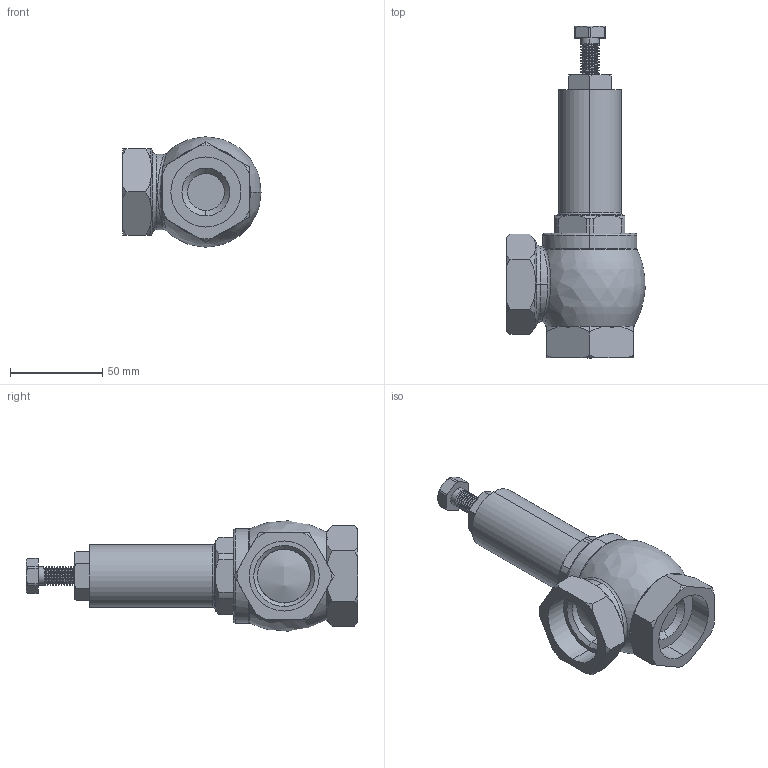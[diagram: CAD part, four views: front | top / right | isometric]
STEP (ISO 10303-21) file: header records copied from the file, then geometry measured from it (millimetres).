
FILE_DESCRIPTION (( 'STEP AP214' ), '1' );
FILE_NAME ('Êëàïàí ïðåäîõðàíèòåëüíûé TSV-32.STEP', '2026-10-08T06:34:35', ( '' ), ( '' ), 'SwSTEP 2.0', 'SolidWorks 2023', '' );
FILE_SCHEMA (( 'AUTOMOTIVE_DESIGN' ));
Length unit declared in the file: millimetre
Products named in the file (1): Клапан предохранительный TSV-32
Bounding box: 74.92 x 180 x 59.92 mm (x, y, z)
Volume: 237163.8 mm3; surface area: 34565.1 mm2
Topology: 1 solids, 1 shells, 177 faces, 468 edges, 302 vertices
Faces by surface type: cone 50, cylinder 49, plane 49, bspline 20, torus 9
Entity records: 11119 total; most frequent: CARTESIAN_POINT 7083, ORIENTED_EDGE 936, DIRECTION 739, EDGE_CURVE 468, VERTEX_POINT 302, AXIS2_PLACEMENT_3D 297, EDGE_LOOP 186, FACE_OUTER_BOUND 177
